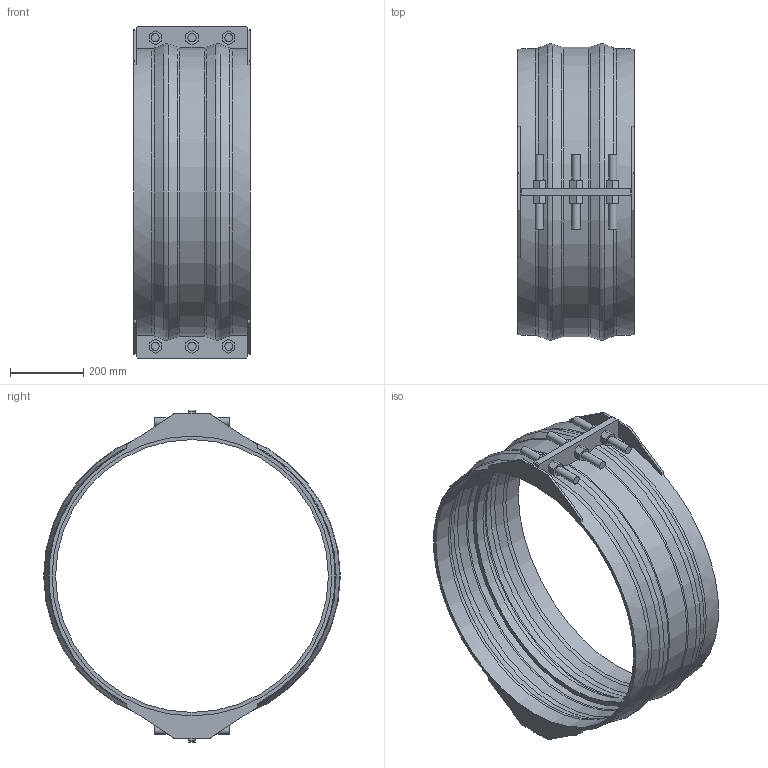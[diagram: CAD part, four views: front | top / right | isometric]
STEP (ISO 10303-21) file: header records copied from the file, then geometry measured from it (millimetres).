
FILE_DESCRIPTION(/* description */ ('VIC RESTRAINED COUPLING STYLE 233 (FLEX) (BRD)','CAx-IF Rec.Pracs.---Representation and Presentation of Product Manufacturing Information (PMI)---4.0---2014-10-13'),/* implementation_level */ '2;1');
FILE_NAME(/* name */ 'C:\Users\Vjadhav\Desktop\CAD for Inventor\Test for STEP\Vivek\Adsk_Inventor_Bolted Sleeve_iParts\STEP\Victaulic_VBSP_Coupling Flexible Restrained_Style 233 (BRD)\Victaulic_VBSP_Coupling Flexible Restrained_Style 233 (BRD)_300psi_30 (750).stp',/* time_stamp */ '2020-09-24T12:29:35+06:00',/* author */ ('Vjadhav'),/* organization */ ('Victaulic'),/* preprocessor_version */ 'ST-DEVELOPER v17.2',/* originating_system */ 'Autodesk Inventor 2019',/* authorisation */ '');
FILE_SCHEMA (('AP242_MANAGED_MODEL_BASED_3D_ENGINEERING_MIM_LF { 1 0 10303 442 1 1 4 }'));
Length unit declared in the file: inch
Products named in the file (1): Style_233_Type_2_300psi-30.0
Bounding box: 317.5 x 807.74 x 904.24 mm (x, y, z)
Volume: 9836377.7 mm3; surface area: 1954768.6 mm2
Topology: 1 solids, 1 shells, 211 faces, 557 edges, 374 vertices
Faces by surface type: plane 142, cylinder 39, torus 18, cone 12
Full cylindrical faces by diameter (mm): 22.225 x12, 742.95 x1, 762 x2, 768.35 x2
Entity records: 7032 total; most frequent: CARTESIAN_POINT 1384, ORIENTED_EDGE 1114, DIRECTION 1111, EDGE_CURVE 557, VERTEX_POINT 374, LINE 373, VECTOR 373, AXIS2_PLACEMENT_3D 369
